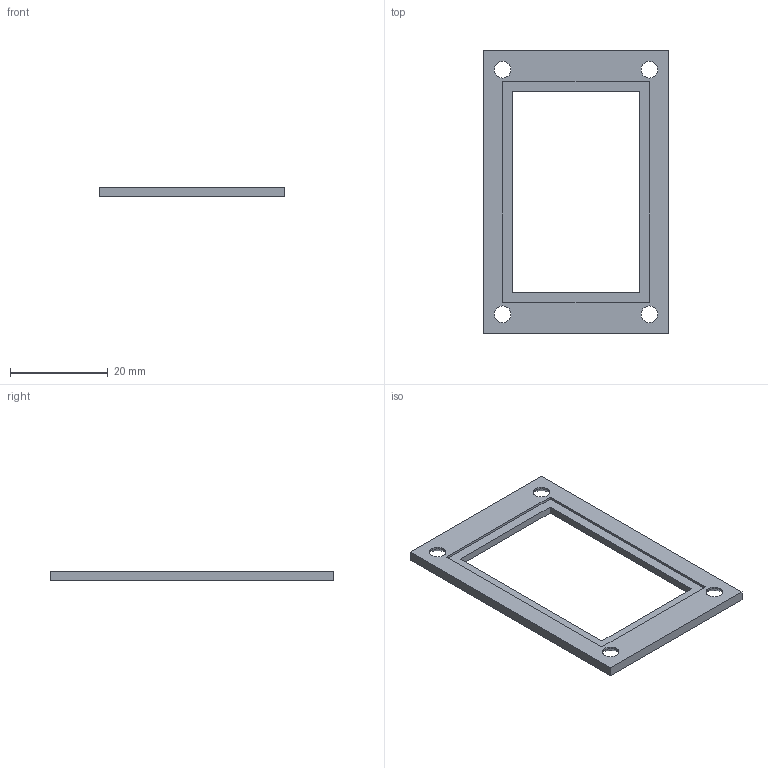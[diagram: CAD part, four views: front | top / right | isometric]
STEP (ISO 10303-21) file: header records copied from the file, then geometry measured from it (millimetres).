
FILE_DESCRIPTION(/* description */ (''),/* implementation_level */ '2;1');
FILE_NAME(/* name */ '',/* time_stamp */ '2026-05-08T17:21:10+08:00',/* author */ ('32769'),/* organization */ (''),/* preprocessor_version */ 'ST-DEVELOPER v20',/* originating_system */ 'Autodesk Inventor 2025',/* authorisation */ '');
FILE_SCHEMA (('AUTOMOTIVE_DESIGN { 1 0 10303 214 3 1 1 }'));
Length unit declared in the file: millimetre
Products named in the file (1): 1521249-8-0033 ¶þ¼¶´°Æ¬Ñ
¹°å²àÃæ
Bounding box: 38 x 58 x 2 mm (x, y, z)
Volume: 1989.5 mm3; surface area: 2922.1 mm2
Topology: 1 solids, 1 shells, 23 faces, 56 edges, 36 vertices
Faces by surface type: plane 15, cone 4, cylinder 4
Full cylindrical faces by diameter (mm): 3.4 x4
Entity records: 733 total; most frequent: DIRECTION 116, CARTESIAN_POINT 116, ORIENTED_EDGE 112, EDGE_CURVE 56, LINE 44, VECTOR 44, VERTEX_POINT 36, AXIS2_PLACEMENT_3D 36
